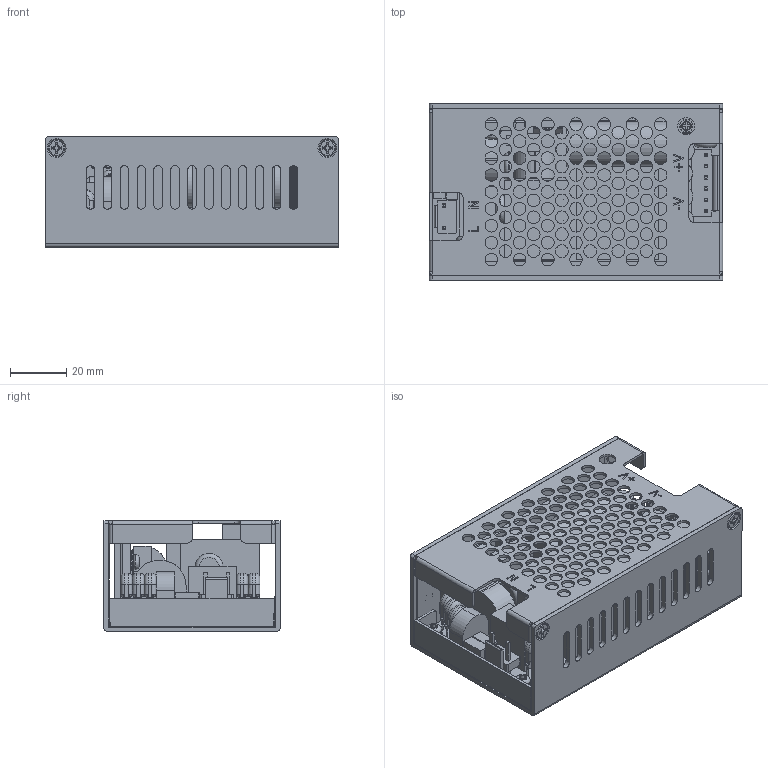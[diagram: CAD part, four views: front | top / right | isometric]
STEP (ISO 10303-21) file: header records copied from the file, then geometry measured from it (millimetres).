
FILE_DESCRIPTION(/* description */ (''),/* implementation_level */ '2;1');
FILE_NAME(/* name */ 'D:\Inventor\ARF240\ARF240E A-TYPE.stp',/* time_stamp */ '2020-06-08T11:07:08+08:00',/* author */ ('peter'),/* organization */ (''),/* preprocessor_version */ 'ST-DEVELOPER v15.2',/* originating_system */ 'Autodesk Inventor 2014',/* authorisation */ '');
FILE_SCHEMA (('AUTOMOTIVE_DESIGN { 1 0 10303 214 3 1 1 }'));
Products named in the file (22): E-CASE; MQF240; 8-22; R377ARF24001; R380MARF24001; M3-1; R378ARF24002; PCB; 2S+1 PIN; R378ARF24001; BD1; TO-220FP; SCREW CH_W  M3_6mm; X1; NTC1 _ 10mm; VR; Y - C; 6 PIN; ARF240O A-TYPE for U_E; ARF240U A-TYPE; SCREW PH M3_05mm; ARF240E A-TYPE
Bounding box: 104 x 62.5 x 39.2 mm (x, y, z)
Volume: 116331.2 mm3; surface area: 105575.3 mm2
Topology: 56 solids, 58 shells, 2588 faces, 6850 edges, 4475 vertices
Faces by surface type: plane 1647, cylinder 503, bspline 251, cone 99, torus 80, sphere 8
Full cylindrical faces by diameter (mm): 0.051 x2, 0.45 x3, 0.5 x1, 0.6 x12, 0.8 x4, 1 x4, 1.85 x2, 2.459 x17, 2.5 x2, 3 x23, 3.1 x6, 3.2 x5, 3.5 x4, 3.7 x2, 4 x4, 4.1 x9, 4.5 x111, 5.8 x10, 6 x1, 16 x1
Entity records: 60407 total; most frequent: CARTESIAN_POINT 12979, ORIENTED_EDGE 9504, DIRECTION 8660, EDGE_CURVE 4752, LINE 3602, VECTOR 3602, VERTEX_POINT 3229, AXIS2_PLACEMENT_3D 2529
